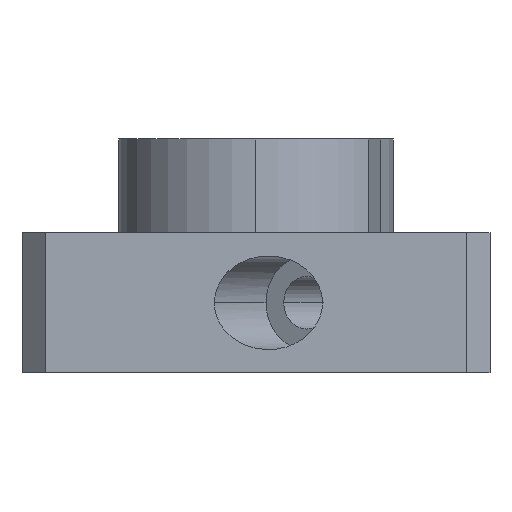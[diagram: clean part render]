
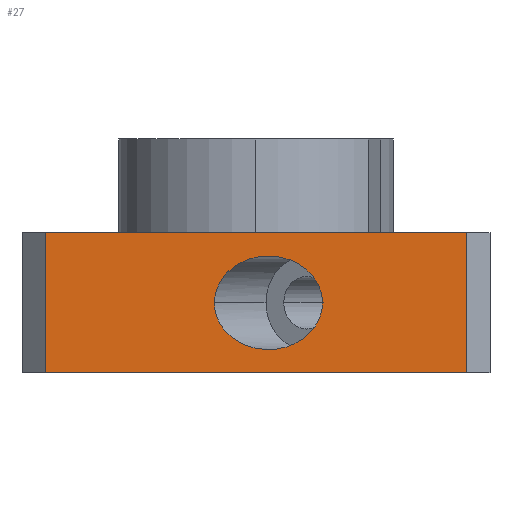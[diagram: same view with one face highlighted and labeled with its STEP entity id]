
A CAD part, left-side view. The second image highlights one B-rep face of the part: STEP entity #27.
In plain terms, the highlighted planar face has unit normal (-1, 0, 0).
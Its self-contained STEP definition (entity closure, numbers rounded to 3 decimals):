
#27 = ADVANCED_FACE ( 'NONE', ( #1124, #826 ), #260, .F. ) ;
#48 = DIRECTION ( 'NONE',  ( 1., 0., 0. ) ) ;
#68 = DIRECTION ( 'NONE',  ( 0., 1., 0. ) ) ;
#76 = EDGE_LOOP ( 'NONE', ( #106, #275 ) ) ;
#85 =( BOUNDED_CURVE ( )  B_SPLINE_CURVE ( 3, ( #1239, #680, #455, #769 ),
 .UNSPECIFIED., .F., .T. ) 
 B_SPLINE_CURVE_WITH_KNOTS ( ( 4, 4 ),
 ( 0., 3.142 ),
 .UNSPECIFIED. ) 
 CURVE ( )  GEOMETRIC_REPRESENTATION_ITEM ( )  RATIONAL_B_SPLINE_CURVE ( ( 1., 0.333, 0.333, 1. ) ) 
 REPRESENTATION_ITEM ( '' )  );
#92 = CARTESIAN_POINT ( 'NONE',  ( -20., -5.682, -12. ) ) ;
#106 = ORIENTED_EDGE ( 'NONE', *, *, #753, .T. ) ;
#135 = VECTOR ( 'NONE', #162, 1000. ) ;
#155 = AXIS2_PLACEMENT_3D ( 'NONE', #931, #48, #68 ) ;
#162 = DIRECTION ( 'NONE',  ( 0., 0., 1. ) ) ;
#203 = CARTESIAN_POINT ( 'NONE',  ( -20., 18., 10. ) ) ;
#216 = VERTEX_POINT ( 'NONE', #1176 ) ;
#230 = VERTEX_POINT ( 'NONE', #816 ) ;
#241 = CARTESIAN_POINT ( 'NONE',  ( -20., -18., 2. ) ) ;
#260 = PLANE ( 'NONE',  #155 ) ;
#267 = CARTESIAN_POINT ( 'NONE',  ( -20., -18., 10. ) ) ;
#275 = ORIENTED_EDGE ( 'NONE', *, *, #625, .T. ) ;
#295 = ORIENTED_EDGE ( 'NONE', *, *, #678, .T. ) ;
#377 = CARTESIAN_POINT ( 'NONE',  ( -20., -18., -10. ) ) ;
#393 = CARTESIAN_POINT ( 'NONE',  ( -20., -5.682, -4. ) ) ;
#455 = CARTESIAN_POINT ( 'NONE',  ( -20., -5.682, 4. ) ) ;
#467 = VECTOR ( 'NONE', #632, 1000. ) ;
#469 = VECTOR ( 'NONE', #784, 1000. ) ;
#470 = LINE ( 'NONE', #267, #135 ) ;
#518 = CARTESIAN_POINT ( 'NONE',  ( -20., -5.682, -4. ) ) ;
#542 = VERTEX_POINT ( 'NONE', #518 ) ;
#554 = VERTEX_POINT ( 'NONE', #241 ) ;
#556 = ORIENTED_EDGE ( 'NONE', *, *, #1174, .T. ) ;
#584 = EDGE_CURVE ( 'NONE', #962, #554, #740, .T. ) ;
#591 = LINE ( 'NONE', #203, #469 ) ;
#624 = CARTESIAN_POINT ( 'NONE',  ( -20., 20., 2. ) ) ;
#625 = EDGE_CURVE ( 'NONE', #216, #542, #85, .T. ) ;
#632 = DIRECTION ( 'NONE',  ( 0., -1., 0. ) ) ;
#678 = EDGE_CURVE ( 'NONE', #699, #554, #470, .T. ) ;
#680 = CARTESIAN_POINT ( 'NONE',  ( -20., 3.556, 4. ) ) ;
#697 =( BOUNDED_CURVE ( )  B_SPLINE_CURVE ( 3, ( #393, #92, #982, #895 ),
 .UNSPECIFIED., .F., .T. ) 
 B_SPLINE_CURVE_WITH_KNOTS ( ( 4, 4 ),
 ( 3.142, 6.283 ),
 .UNSPECIFIED. ) 
 CURVE ( )  GEOMETRIC_REPRESENTATION_ITEM ( )  RATIONAL_B_SPLINE_CURVE ( ( 1., 0.333, 0.333, 1. ) ) 
 REPRESENTATION_ITEM ( '' )  );
#699 = VERTEX_POINT ( 'NONE', #377 ) ;
#719 = CARTESIAN_POINT ( 'NONE',  ( -20., 20., -10. ) ) ;
#740 = LINE ( 'NONE', #624, #1253 ) ;
#753 = EDGE_CURVE ( 'NONE', #542, #216, #697, .T. ) ;
#769 = CARTESIAN_POINT ( 'NONE',  ( -20., -5.682, -4. ) ) ;
#784 = DIRECTION ( 'NONE',  ( 0., 0., -1. ) ) ;
#816 = CARTESIAN_POINT ( 'NONE',  ( -20., 18., -10. ) ) ;
#820 = ORIENTED_EDGE ( 'NONE', *, *, #964, .T. ) ;
#826 = FACE_OUTER_BOUND ( 'NONE', #1245, .T. ) ;
#855 = ORIENTED_EDGE ( 'NONE', *, *, #584, .F. ) ;
#895 = CARTESIAN_POINT ( 'NONE',  ( -20., 3.556, -4. ) ) ;
#931 = CARTESIAN_POINT ( 'NONE',  ( -20., 20., 10. ) ) ;
#962 = VERTEX_POINT ( 'NONE', #1006 ) ;
#964 = EDGE_CURVE ( 'NONE', #230, #699, #1088, .T. ) ;
#982 = CARTESIAN_POINT ( 'NONE',  ( -20., 3.556, -12. ) ) ;
#1006 = CARTESIAN_POINT ( 'NONE',  ( -20., 18., 2. ) ) ;
#1028 = DIRECTION ( 'NONE',  ( 0., -1., 0. ) ) ;
#1088 = LINE ( 'NONE', #719, #467 ) ;
#1124 = FACE_BOUND ( 'NONE', #76, .T. ) ;
#1174 = EDGE_CURVE ( 'NONE', #962, #230, #591, .T. ) ;
#1176 = CARTESIAN_POINT ( 'NONE',  ( -20., 3.556, -4. ) ) ;
#1239 = CARTESIAN_POINT ( 'NONE',  ( -20., 3.556, -4. ) ) ;
#1245 = EDGE_LOOP ( 'NONE', ( #820, #295, #855, #556 ) ) ;
#1253 = VECTOR ( 'NONE', #1028, 1000. ) ;
